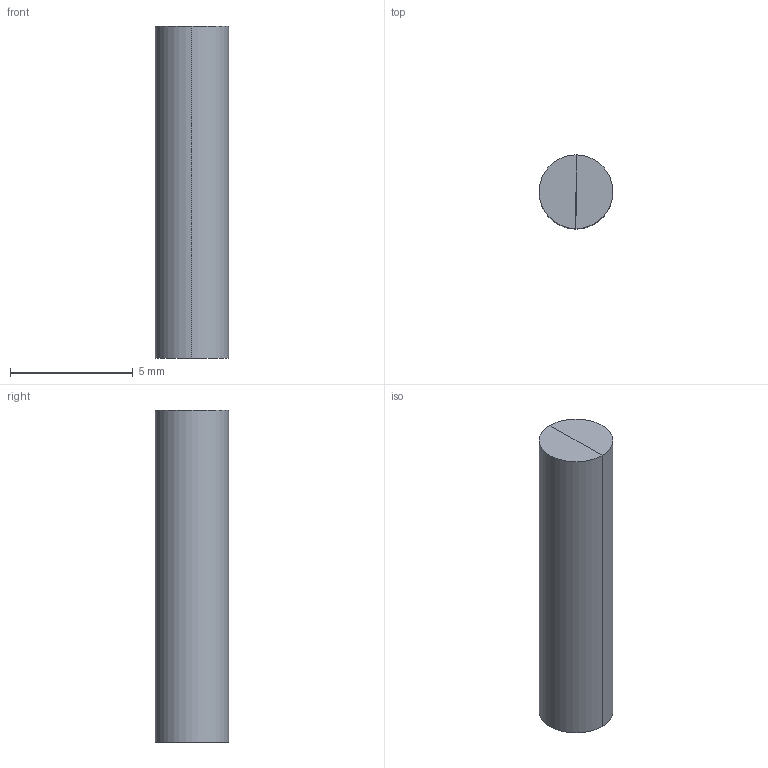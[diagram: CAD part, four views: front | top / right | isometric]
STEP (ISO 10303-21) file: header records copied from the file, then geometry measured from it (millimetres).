
FILE_DESCRIPTION(('FreeCAD Model'),'2;1');
FILE_NAME('I:/Workspace/grid/Mechanical/Design/Magnet/Release/Magnet_3x13.5_DIA.step','2020-04-19T18:52:06',('Author'),(''), 'Open CASCADE STEP processor 7.3','FreeCAD','Unknown');
FILE_SCHEMA(('AUTOMOTIVE_DESIGN { 1 0 10303 214 1 1 1 1 }'));
Length unit declared in the file: millimetre
Products named in the file (3): Magnet; South; North
Assembly tree (2 placements, depth 2):
  Magnet
    South
    North
Bounding box: 3 x 3 x 13.5 mm (x, y, z)
Volume: 95.4 mm3; surface area: 222.4 mm2
Topology: 2 solids, 2 shells, 8 faces, 12 edges, 8 vertices
Faces by surface type: plane 6, cylinder 2
Entity records: 402 total; most frequent: DIRECTION 62, CARTESIAN_POINT 55, LINE 28, VECTOR 28, ORIENTED_EDGE 24, PCURVE 24, DEFINITIONAL_REPRESENTATION 24, AXIS2_PLACEMENT_3D 15
